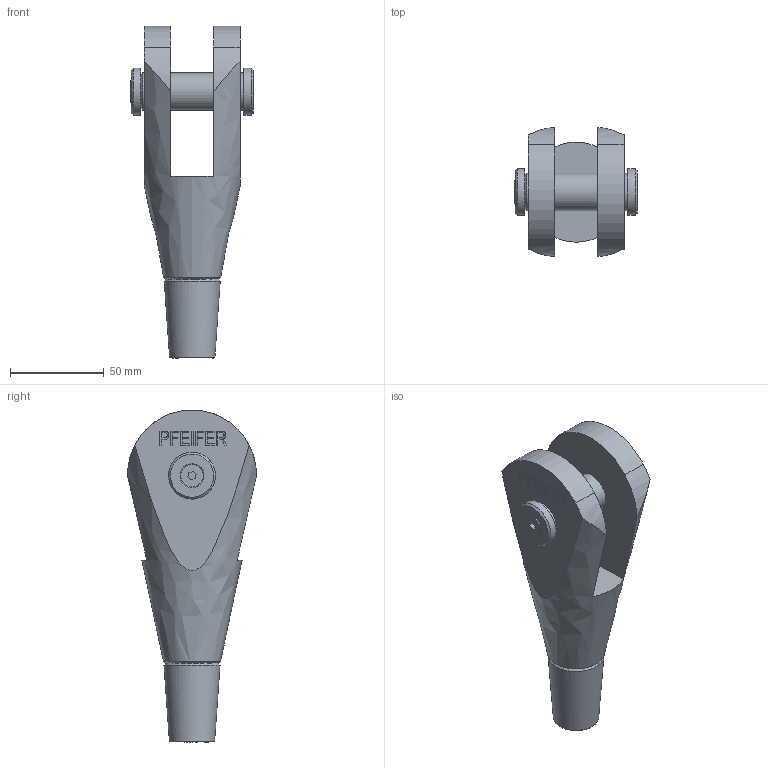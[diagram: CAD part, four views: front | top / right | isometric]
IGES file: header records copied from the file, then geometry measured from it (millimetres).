
Global section: file name: 520-020-GAK; native system: Autodesk Inventor 2016; preprocessor: unknown; author: Administrator; date: 20200625.074608; units: centimetre
Bounding box: 65.22 x 68.77 x 176.99 mm (x, y, z)
Volume: 215612.2 mm3; surface area: 43632.8 mm2
Topology: 2 solids, 3 shells, 186 faces, 489 edges, 328 vertices
Faces by surface type: bspline 186
